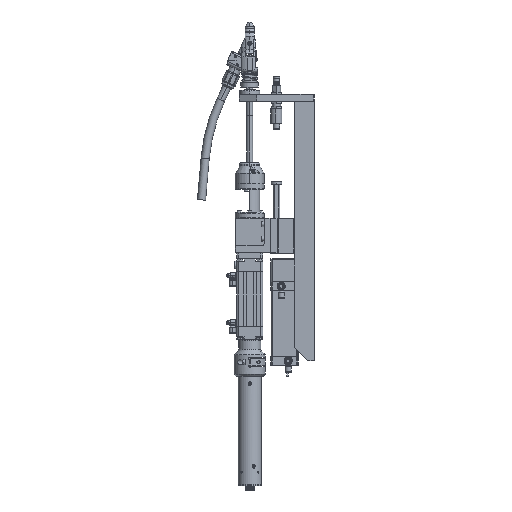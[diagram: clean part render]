
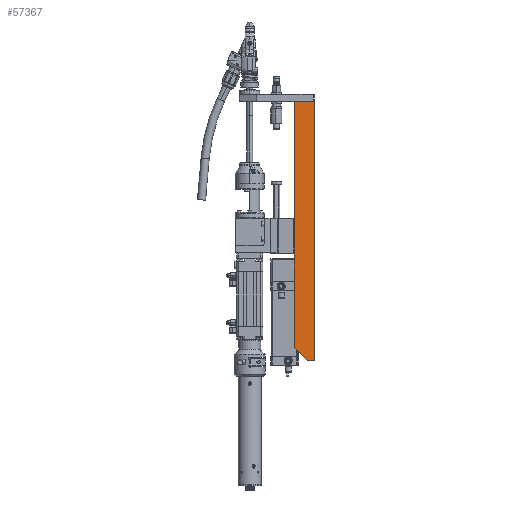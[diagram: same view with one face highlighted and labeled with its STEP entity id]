
A CAD part, left-side view. The second image highlights one B-rep face of the part: STEP entity #57367.
In plain terms, the highlighted planar face has unit normal (-1, 0, 0).
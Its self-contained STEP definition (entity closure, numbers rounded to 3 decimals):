
#4171 = CARTESIAN_POINT ( 'NONE',  ( -29., 0., -223. ) ) ;
#5357 = PLANE ( 'NONE',  #123894 ) ;
#9003 = ORIENTED_EDGE ( 'NONE', *, *, #11504, .T. ) ;
#11504 = EDGE_CURVE ( 'NONE', #25697, #20015, #21327, .T. ) ;
#12861 = ORIENTED_EDGE ( 'NONE', *, *, #67740, .T. ) ;
#13938 = LINE ( 'NONE', #97960, #17513 ) ;
#17513 = VECTOR ( 'NONE', #78610, 1000. ) ;
#18428 = DIRECTION ( 'NONE',  ( 1., 0., 0. ) ) ;
#20015 = VERTEX_POINT ( 'NONE', #97440 ) ;
#21327 = LINE ( 'NONE', #96377, #77431 ) ;
#25697 = VERTEX_POINT ( 'NONE', #4171 ) ;
#27977 = CARTESIAN_POINT ( 'NONE',  ( -29., 35., 223. ) ) ;
#32481 = VECTOR ( 'NONE', #87482, 1000. ) ;
#42305 = VECTOR ( 'NONE', #54953, 1000. ) ;
#44026 = DIRECTION ( 'NONE',  ( 0., 0., 1. ) ) ;
#54953 = DIRECTION ( 'NONE',  ( 0., 0., 1. ) ) ;
#57013 = LINE ( 'NONE', #119005, #42305 ) ;
#57367 = ADVANCED_FACE ( 'NONE', ( #119760 ), #5357, .F. ) ;
#67513 = LINE ( 'NONE', #75774, #32481 ) ;
#67740 = EDGE_CURVE ( 'NONE', #91523, #25697, #67513, .T. ) ;
#68878 = LINE ( 'NONE', #79883, #131407 ) ;
#71464 = EDGE_CURVE ( 'NONE', #122159, #96257, #57013, .T. ) ;
#75698 = EDGE_LOOP ( 'NONE', ( #79879, #99465, #12861, #9003, #109922 ) ) ;
#75774 = CARTESIAN_POINT ( 'NONE',  ( -29., 35., -223. ) ) ;
#77431 = VECTOR ( 'NONE', #44026, 1000. ) ;
#78610 = DIRECTION ( 'NONE',  ( 0., -0.707, -0.707 ) ) ;
#79879 = ORIENTED_EDGE ( 'NONE', *, *, #71464, .F. ) ;
#79883 = CARTESIAN_POINT ( 'NONE',  ( -29., 35., 223. ) ) ;
#87482 = DIRECTION ( 'NONE',  ( 0., -1., 0. ) ) ;
#91523 = VERTEX_POINT ( 'NONE', #93633 ) ;
#93633 = CARTESIAN_POINT ( 'NONE',  ( -29., 12., -223. ) ) ;
#96257 = VERTEX_POINT ( 'NONE', #27977 ) ;
#96377 = CARTESIAN_POINT ( 'NONE',  ( -29., 0., 223. ) ) ;
#97440 = CARTESIAN_POINT ( 'NONE',  ( -29., 0., 223. ) ) ;
#97960 = CARTESIAN_POINT ( 'NONE',  ( -29., 35., -200. ) ) ;
#98110 = EDGE_CURVE ( 'NONE', #122159, #91523, #13938, .T. ) ;
#99465 = ORIENTED_EDGE ( 'NONE', *, *, #98110, .T. ) ;
#107654 = CARTESIAN_POINT ( 'NONE',  ( -29., 35., -200. ) ) ;
#108187 = EDGE_CURVE ( 'NONE', #96257, #20015, #68878, .T. ) ;
#109922 = ORIENTED_EDGE ( 'NONE', *, *, #108187, .F. ) ;
#119005 = CARTESIAN_POINT ( 'NONE',  ( -29., 35., 223. ) ) ;
#119760 = FACE_OUTER_BOUND ( 'NONE', #75698, .T. ) ;
#121779 = DIRECTION ( 'NONE',  ( 0., 0., -1. ) ) ;
#121925 = DIRECTION ( 'NONE',  ( 0., -1., 0. ) ) ;
#122159 = VERTEX_POINT ( 'NONE', #107654 ) ;
#123818 = CARTESIAN_POINT ( 'NONE',  ( -29., 35., 223. ) ) ;
#123894 = AXIS2_PLACEMENT_3D ( 'NONE', #123818, #18428, #121779 ) ;
#131407 = VECTOR ( 'NONE', #121925, 1000. ) ;
